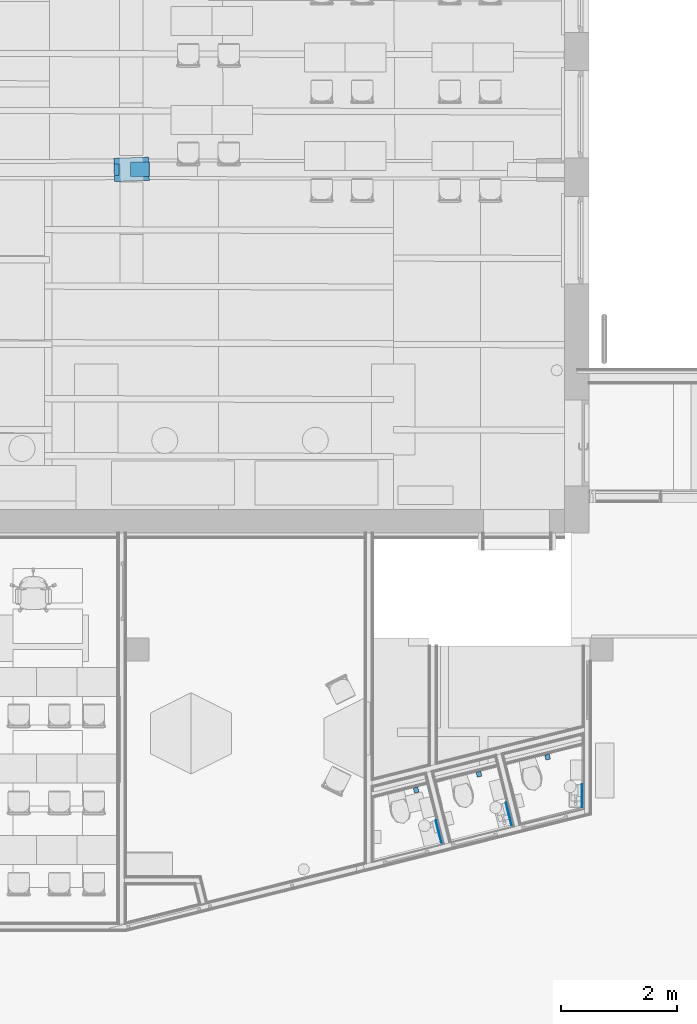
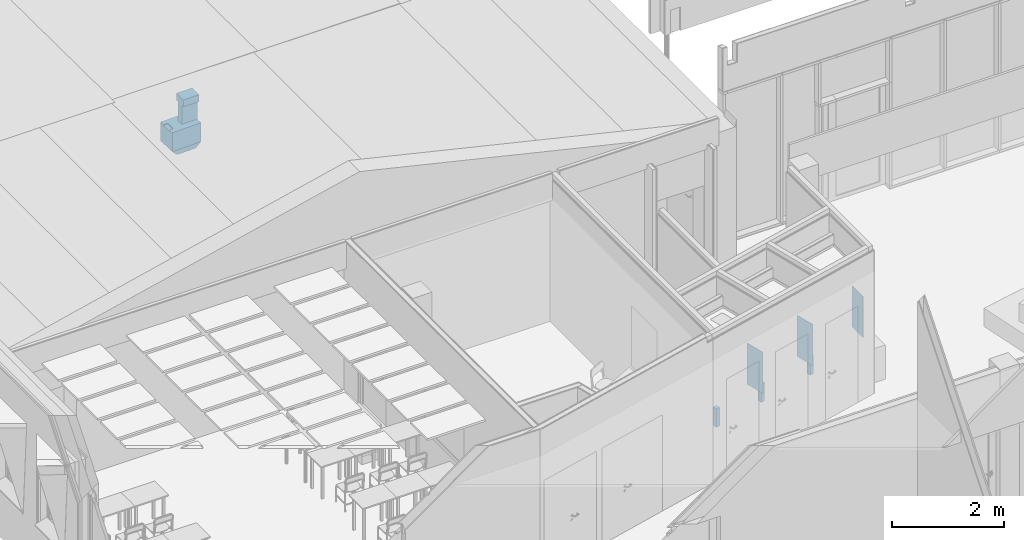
# One storey, part 94 of 153: 6 discrete accessories, 3 building element parts, 2 elements without a shape of their own.
"""IFC2X3 building model written with IfcOpenShell, lengths in millimetres."""

from ifc_helpers import new_model, entity, si_unit, converted_unit, derived_unit, money_unit, direction, frame, origin_with_axes, place, context, subcontext, project, spatial, faceted_brep, material, type_object, element, aggregate, save


model = new_model("IFC2X3")

# Units and contexts
model_context = context("Model", 3, precision=0.01, world=origin_with_axes(), true_north=direction((0.0, 1.0)))
body_context = subcontext(model_context, "Body", "Model", "MODEL_VIEW")
ifc_project = project(units=[si_unit("LENGTHUNIT", "METRE", prefix="MILLI"), si_unit("AREAUNIT", "SQUARE_METRE"), si_unit("VOLUMEUNIT", "CUBIC_METRE"), converted_unit("PLANEANGLEUNIT", "DEGREE", entity("IfcPlaneAngleMeasure", 0.0174532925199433), si_unit("PLANEANGLEUNIT", "RADIAN"), dimensions=[0, 0, 0, 0, 0, 0, 0]), money_unit("EUR"), converted_unit("TIMEUNIT", "Year", entity("IfcTimeMeasure", 31557600.0), si_unit("TIMEUNIT", "SECOND"), dimensions=[0, 0, 1, 0, 0, 0, 0]), si_unit("MASSUNIT", "GRAM", prefix="KILO"), si_unit("THERMODYNAMICTEMPERATUREUNIT", "DEGREE_CELSIUS"), si_unit("LUMINOUSINTENSITYUNIT", "LUMEN"), si_unit("ENERGYUNIT", "JOULE", prefix="MEGA"), derived_unit("THERMALCONDUCTANCEUNIT", [(si_unit("POWERUNIT", "WATT"), 1), (si_unit("LENGTHUNIT", "METRE"), -1), (si_unit("THERMODYNAMICTEMPERATUREUNIT", "KELVIN"), -1)]), derived_unit("SPECIFICHEATCAPACITYUNIT", [(si_unit("ENERGYUNIT", "JOULE"), 1), (si_unit("MASSUNIT", "GRAM", prefix="KILO"), -1), (si_unit("THERMODYNAMICTEMPERATUREUNIT", "KELVIN"), -1)]), derived_unit("MASSDENSITYUNIT", [(si_unit("MASSUNIT", "GRAM", prefix="KILO"), 1), (si_unit("VOLUMEUNIT", "CUBIC_METRE"), -1)])], contexts=[model_context])

# Site, building, storey
site_placement = place(None, frame((0.0, 0.0, 8650.0), z_axis=(0.0, 0.0, 1.0), x_axis=(1.0, 0.0, 0.0)))
site = spatial("IfcSite", under=ifc_project, at=site_placement, Name="43301:001:0844", CompositionType="ELEMENT")
building_placement = place(site_placement, origin_with_axes())
building = spatial("IfcBuilding", under=site, at=building_placement, Name="Kuressaare Ametikooli tuulikute mehaanikute õppekorpus", CompositionType="ELEMENT")
storey_placement = place(building_placement, frame((0.0, 0.0, 4100.0), z_axis=(0.0, 0.0, 1.0), x_axis=(1.0, 0.0, 0.0)))
storey = spatial("IfcBuildingStorey", under=building, at=storey_placement, Name="2.korrus", CompositionType="ELEMENT", Elevation=4100.0)

# Discrete accessories
ifc_material_1 = material(Name="GENEERILINE - SISEMINE VOODER")
discrete_accessory_type_1 = type_object("IfcDiscreteAccessoryType", Name="GENEERILINE - SISEMINE VOODER 10")
discrete_accessory_1_placement = place(storey_placement, frame((101101.6615131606, 20437.59218528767, 1200.0), z_axis=(0.0, 0.0, 1.0), x_axis=(-0.2431234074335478, 0.9699953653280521, 0.0)))
element("IfcDiscreteAccessory", 1, at=discrete_accessory_1_placement, inside=storey, type_object=discrete_accessory_type_1, material=ifc_material_1, Name="P1", context=body_context, shape_type="Brep", body=[
    faceted_brep([(0.0, 0.0, 0.0), (399.9999999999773, 0.0, 0.0), (399.9999999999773, -10.00000000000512, 0.0), (0.0, -10.00000000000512, 0.0), (0.0, 0.0, 899.9999999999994), (399.9999999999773, 0.0, 899.9999999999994), (399.9999999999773, -10.00000000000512, 899.9999999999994), (0.0, -10.00000000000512, 899.9999999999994)], [[[0, 1, 2, 3]], [[4, 5, 1, 0]], [[2, 1, 5, 6]], [[3, 2, 6, 7]], [[4, 0, 3, 7]], [[7, 6, 5, 4]]]),
])
discrete_accessory_2_placement = place(storey_placement, frame((102311.2459204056, 20740.76694918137, 1200.0), z_axis=(0.0, 0.0, 1.0), x_axis=(-0.2431234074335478, 0.9699953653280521, 0.0)))
element("IfcDiscreteAccessory", 2, at=discrete_accessory_2_placement, inside=storey, type_object=discrete_accessory_type_1, material=ifc_material_1, Name="P1", context=body_context, shape_type="Brep", body=[
    faceted_brep([(0.0, 0.0, 0.0), (399.9999999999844, 0.0, 0.0), (399.9999999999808, -10.00000000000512, 0.0), (0.0, -10.00000000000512, 0.0), (0.0, 0.0, 899.9999999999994), (399.9999999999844, 0.0, 899.9999999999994), (399.9999999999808, -10.00000000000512, 899.9999999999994), (0.0, -10.00000000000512, 899.9999999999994)], [[[0, 1, 2, 3]], [[4, 5, 1, 0]], [[2, 1, 5, 6]], [[3, 2, 6, 7]], [[4, 0, 3, 7]], [[7, 6, 5, 4]]]),
])
discrete_accessory_3_placement = place(storey_placement, frame((103526.9521417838, 21047.98218392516, 1200.0), z_axis=(0.0, 0.0, 1.0), x_axis=(0.0, 1.0, 0.0)))
element("IfcDiscreteAccessory", 3, at=discrete_accessory_3_placement, inside=storey, type_object=discrete_accessory_type_1, material=ifc_material_1, Name="P1", context=body_context, shape_type="Brep", body=[
    faceted_brep([(0.0, 0.0, 0.0), (399.9999999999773, 0.0, 0.0), (399.9999999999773, -9.999999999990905, 0.0), (0.0, -10.00000000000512, 0.0), (0.0, 0.0, 899.9999999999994), (399.9999999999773, 0.0, 899.9999999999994), (399.9999999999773, -9.999999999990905, 899.9999999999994), (0.0, -10.00000000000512, 899.9999999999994)], [[[0, 1, 2, 3]], [[4, 5, 1, 0]], [[2, 1, 5, 6]], [[3, 2, 6, 7]], [[4, 0, 3, 7]], [[7, 6, 5, 4]]]),
])
ifc_material_2 = material(Name="GENEERILINE - KONSTRUKTRIOON")
discrete_accessory_type_2 = type_object("IfcDiscreteAccessoryType", Name="GENEERILINE - KONSTRUKTRIOON 400")
for number, where, z_axis, x_axis in (
    (4, (100720.5726101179, 21315.27495226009, 99.99999999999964), (0.0, 0.0, 1.0), (1.0, 0.0, 0.0)),
    (5, (101805.0276152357, 21587.08679659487, 99.99999999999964), (0.0, 0.0, 1.0), (1.0, 0.0, 0.0)),
    (6, (102986.4821163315, 21883.21114347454, 99.99999999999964), (0.0, 0.0, 1.0), (1.0, 0.0, 0.0)),
):
    element("IfcDiscreteAccessory", number, at=place(storey_placement, frame(where, z_axis=z_axis, x_axis=x_axis)), inside=storey, type_object=discrete_accessory_type_2, material=ifc_material_2, Name="WCH", context=body_context, shape_type="Brep", body=[
        faceted_brep([(0.0, 0.0, 400.0000000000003), (0.0, 0.0, 0.0), (-21.6380005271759, 86.32958318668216, 0.0), (-21.6380005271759, 86.32958318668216, 400.0000000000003), (-78.56962065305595, -19.69301171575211, 400.0000000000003), (-78.56962065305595, -19.69301171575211, 0.0), (-100.2076211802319, 66.63657147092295, 0.0), (-100.2076211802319, 66.63657147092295, 400.0000000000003)], [[[0, 1, 2, 3]], [[4, 5, 1, 0]], [[2, 1, 5, 6]], [[3, 2, 6, 7]], [[4, 0, 3, 7]], [[7, 6, 5, 4]]]),
    ])

# Column, building element parts
column_type = type_object("IfcColumnType", Name="Various Structures - 3 Segments - 600 x 400 x 2500 (1983+102+415)", PredefinedType="NOTDEFINED")
column_placement = place(storey_placement, frame((95762.878020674, 32051.0340460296, -540.0000000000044), z_axis=(0.0, 0.0, 1.0), x_axis=(0.9993908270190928, 0.03489949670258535, 0.0)))
column = element("IfcColumn", 7, at=column_placement, inside=storey, type_object=column_type)
building_element_part_1_placement = place(column_placement, origin_with_axes())
building_element_part_1 = element("IfcBuildingElementPart", 8, at=building_element_part_1_placement, material=ifc_material_2, Name="GENEERILINE - KONSTRUKTRIOON", context=body_context, shape_type="Brep", body=[
    faceted_brep([(299.9999999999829, -199.9999999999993, 2085.0), (-300.0000000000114, -200.0000000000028, 2085.0), (-200.0000000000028, -200.0000000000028, 1982.979557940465), (199.9999999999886, -200.0000000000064, 1982.979557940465), (299.9999999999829, 199.9999999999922, 2085.0), (-300.0000000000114, 199.9999999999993, 2085.0), (-200.0000000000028, 200.0000000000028, 1982.979557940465), (199.9999999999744, 199.9999999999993, 1982.979557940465)], [[[0, 1, 2, 3]], [[4, 5, 1, 0]], [[1, 5, 6, 2]], [[7, 3, 2, 6]], [[4, 0, 3, 7]], [[5, 4, 7, 6]]]),
])
building_element_part_2_placement = place(column_placement, origin_with_axes())
building_element_part_2 = element("IfcBuildingElementPart", 9, at=building_element_part_2_placement, material=ifc_material_2, Name="GENEERILINE - KONSTRUKTRIOON", context=body_context, shape_type="Brep", body=[
    faceted_brep([(-300.0000000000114, 199.9999999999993, 2500.0), (-300.0000000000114, 103.3082526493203, 2500.0), (-211.8745724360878, 100.4735297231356, 2500.0), (-218.304629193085, -99.42307947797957, 2500.0), (-299.9999999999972, -96.7951916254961, 2500.0), (-300.0000000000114, -200.0000000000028, 2500.0), (299.9999999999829, -199.9999999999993, 2500.0), (299.9999999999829, 199.9999999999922, 2500.0), (-300.0000000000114, -96.7951916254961, 2479.998829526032), (-300.0000000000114, 103.3082526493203, 2479.998829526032), (-300.0000000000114, 199.9999999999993, 2085.0), (-300.0000000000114, -200.0000000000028, 2085.0), (-211.8745724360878, 100.4735297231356, 2479.998829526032), (-218.304629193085, -99.42307947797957, 2479.998829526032), (299.9999999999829, -199.9999999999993, 2085.0), (299.9999999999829, 199.9999999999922, 2085.0)], [[[0, 1, 2, 3, 4, 5, 6, 7]], [[8, 9, 1, 0, 10, 11, 5, 4]], [[12, 2, 1, 9]], [[13, 3, 2, 12]], [[8, 4, 3, 13]], [[6, 5, 11, 14]], [[7, 6, 14, 15]], [[0, 7, 15, 10]], [[12, 9, 8, 13]], [[15, 14, 11, 10]]]),
])
aggregate(column, [building_element_part_1, building_element_part_2])

# Beam, building element part
beam_type = type_object("IfcBeamType", Name="Various Structures - 5 Segments - 250 x 700 x 7480 (322+828+5345+505+480)", PredefinedType="NOTDEFINED")
beam_placement = place(storey_placement, frame((95747.90111654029, 32051.05889258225, 2530.0), z_axis=(0.0, 0.0, 1.0), x_axis=(-0.001658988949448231, -0.999998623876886, 0.0)))
beam = element("IfcBeam", 10, at=beam_placement, inside=storey, type_object=beam_type)
ifc_material_3 = material(Name="Raudbetoon")
building_element_part_3_placement = place(beam_placement, origin_with_axes())
building_element_part_3 = element("IfcBuildingElementPart", 11, at=building_element_part_3_placement, material=ifc_material_3, Name="Raudbetoon", context=body_context, shape_type="Brep", body=[
    faceted_brep([(64.99999999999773, 0.0, -569.9999976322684), (64.99999999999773, 321.5671349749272, -569.9999976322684), (64.99999999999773, 321.5671349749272, -164.4012678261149), (64.99999999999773, 0.0, -164.4012678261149), (-64.99999999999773, 0.0, -569.9999976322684), (-65.00000000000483, 321.5671349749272, -569.9999976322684), (-65.00000000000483, 321.5671349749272, -164.4012678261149), (-125.0052826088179, 321.5671349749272, -150.0000000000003), (-125.0055545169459, 321.5671349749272, 0.0), (125.0055545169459, 321.567134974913, 0.0), (125.0052826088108, 321.567134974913, -150.0000000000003), (125.0052826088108, 0.0, -150.0000000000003), (125.0055545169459, 0.0, 0.0), (-125.0055545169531, 0.0, 0.0), (-125.0052826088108, 0.0, -150.0000000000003), (-64.99999999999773, 0.0, -164.4012678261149)], [[[0, 1, 2, 3]], [[4, 5, 1, 0]], [[2, 1, 5, 6, 7, 8, 9, 10]], [[3, 2, 10, 11]], [[4, 0, 3, 11, 12, 13, 14, 15]], [[15, 6, 5, 4]], [[14, 7, 6, 15]], [[13, 8, 7, 14]], [[12, 9, 8, 13]], [[11, 10, 9, 12]]]),
])
aggregate(beam, [building_element_part_3])

save(model, "model.ifc")
